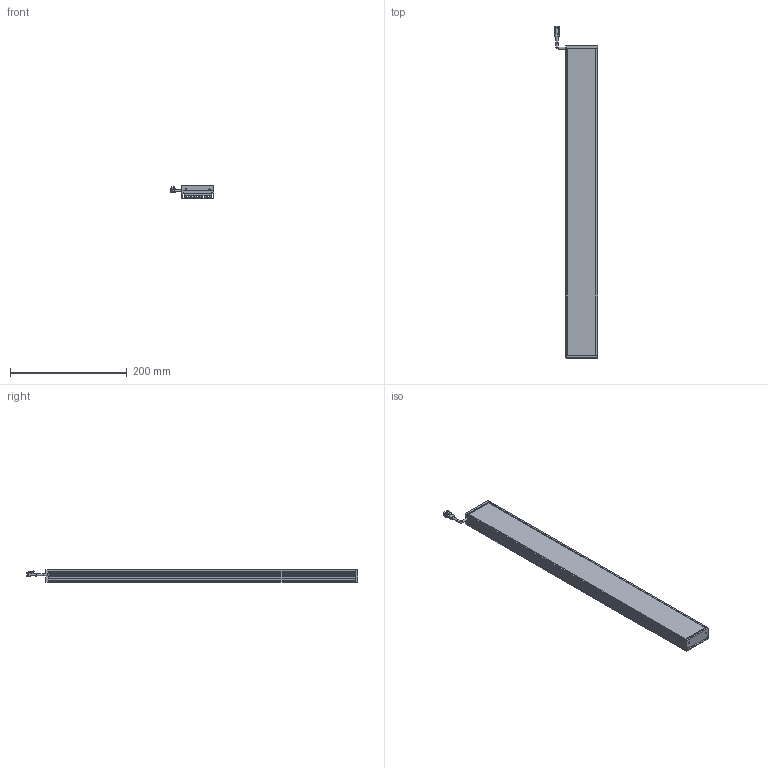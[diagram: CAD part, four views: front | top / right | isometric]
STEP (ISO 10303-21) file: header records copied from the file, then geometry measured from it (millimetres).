
FILE_DESCRIPTION(/* description */ (''),/* implementation_level */ '2;1');
FILE_NAME(/* name */ '',/* time_stamp */ '2024-02-21T15:30:41+08:00',/* author */ (''),/* organization */ (''),/* preprocessor_version */ 'ST-DEVELOPER v20',/* originating_system */ 'Autodesk Translation Framework v12.20.1.177',/* authorisation */ '');
FILE_SCHEMA (('AUTOMOTIVE_DESIGN { 1 0 10303 214 3 1 1 }'));
Length unit declared in the file: millimetre
Products named in the file (6): L55; 3拼母头 v2; 主体; 漫射板; 挡头 (1); 挡头
Assembly tree (5 placements, depth 2):
  L55
    3拼母头 v2
    主体
    漫射板
    挡头 (1)
    挡头
Bounding box: 75 x 569 x 22 mm (x, y, z)
Volume: 282746.8 mm3; surface area: 233534.8 mm2
Topology: 6 solids, 6 shells, 455 faces, 1297 edges, 862 vertices
Faces by surface type: plane 326, cylinder 124, cone 4, torus 1
Full cylindrical faces by diameter (mm): 2.529 x4, 3.8 x3
Entity records: 14941 total; most frequent: CARTESIAN_POINT 2630, ORIENTED_EDGE 2586, DIRECTION 2487, EDGE_CURVE 1293, LINE 1029, VECTOR 1029, VERTEX_POINT 862, AXIS2_PLACEMENT_3D 729
